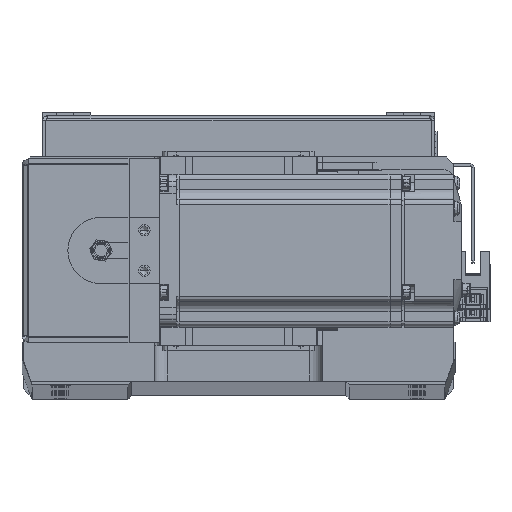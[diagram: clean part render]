
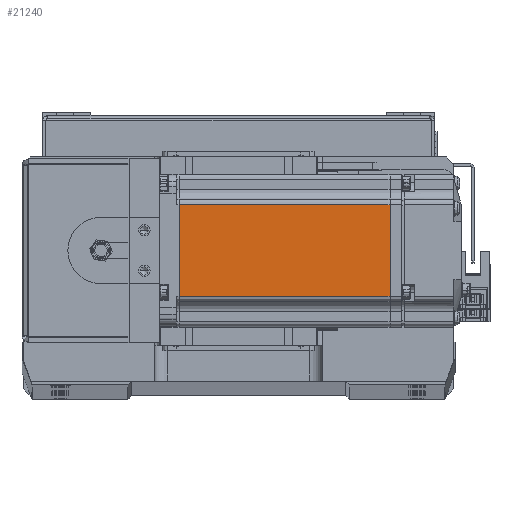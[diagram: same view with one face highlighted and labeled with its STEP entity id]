
A CAD part, top view. The second image highlights one B-rep face of the part: STEP entity #21240.
In plain terms, the highlighted planar face has unit normal (0, 0, 1) as drawn and (0, 1, 0) by its records, which use the part's own axes.
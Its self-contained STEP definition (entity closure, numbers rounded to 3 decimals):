
#2044 = PLANE ( 'NONE',  #27250 ) ;
#2067 = DIRECTION ( 'NONE',  ( 0., 0., 1. ) ) ;
#3371 = CARTESIAN_POINT ( 'NONE',  ( -6.5, 30., 18. ) ) ;
#3880 = EDGE_CURVE ( 'NONE', #19013, #28549, #31281, .T. ) ;
#4975 = LINE ( 'NONE', #15645, #15765 ) ;
#5772 = EDGE_CURVE ( 'NONE', #34835, #16959, #42393, .T. ) ;
#7071 = EDGE_CURVE ( 'NONE', #16959, #28549, #26681, .T. ) ;
#7088 = VECTOR ( 'NONE', #24942, 1000. ) ;
#8154 = CARTESIAN_POINT ( 'NONE',  ( -7.75, 30., 0. ) ) ;
#9891 = DIRECTION ( 'NONE',  ( 1., 0., 0. ) ) ;
#10429 = ORIENTED_EDGE ( 'NONE', *, *, #7071, .T. ) ;
#14323 = EDGE_LOOP ( 'NONE', ( #33515, #40619, #21938, #10429 ) ) ;
#14914 = FACE_OUTER_BOUND ( 'NONE', #14323, .T. ) ;
#15645 = CARTESIAN_POINT ( 'NONE',  ( -6.5, 30., -18. ) ) ;
#15737 = EDGE_CURVE ( 'NONE', #19013, #34835, #4975, .T. ) ;
#15765 = VECTOR ( 'NONE', #35482, 1000. ) ;
#16959 = VERTEX_POINT ( 'NONE', #33098 ) ;
#19013 = VERTEX_POINT ( 'NONE', #30354 ) ;
#19071 = CARTESIAN_POINT ( 'NONE',  ( -90.45, 30., 0. ) ) ;
#21240 = ADVANCED_FACE ( 'NONE', ( #14914 ), #2044, .T. ) ;
#21938 = ORIENTED_EDGE ( 'NONE', *, *, #5772, .T. ) ;
#24942 = DIRECTION ( 'NONE',  ( 0., 0., 1. ) ) ;
#26681 = LINE ( 'NONE', #3371, #28405 ) ;
#27250 = AXIS2_PLACEMENT_3D ( 'NONE', #41523, #28199, #34971 ) ;
#28199 = DIRECTION ( 'NONE',  ( 0., 1., 0. ) ) ;
#28405 = VECTOR ( 'NONE', #9891, 1000. ) ;
#28549 = VERTEX_POINT ( 'NONE', #30161 ) ;
#28695 = CARTESIAN_POINT ( 'NONE',  ( -90.45, 30., -18. ) ) ;
#30161 = CARTESIAN_POINT ( 'NONE',  ( -7.75, 30., 18. ) ) ;
#30354 = CARTESIAN_POINT ( 'NONE',  ( -7.75, 30., -18. ) ) ;
#31281 = LINE ( 'NONE', #8154, #7088 ) ;
#33098 = CARTESIAN_POINT ( 'NONE',  ( -90.45, 30., 18. ) ) ;
#33515 = ORIENTED_EDGE ( 'NONE', *, *, #3880, .F. ) ;
#34835 = VERTEX_POINT ( 'NONE', #28695 ) ;
#34971 = DIRECTION ( 'NONE',  ( 0., 0., 1. ) ) ;
#35482 = DIRECTION ( 'NONE',  ( -1., 0., 0. ) ) ;
#39215 = VECTOR ( 'NONE', #2067, 1000. ) ;
#40619 = ORIENTED_EDGE ( 'NONE', *, *, #15737, .T. ) ;
#41523 = CARTESIAN_POINT ( 'NONE',  ( -6.5, 30., 25. ) ) ;
#42393 = LINE ( 'NONE', #19071, #39215 ) ;
